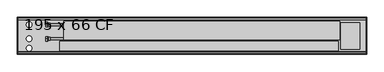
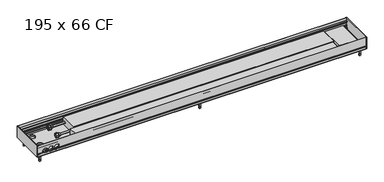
"""IFC4 building model written with IfcOpenShell, lengths in millimetres: proxy geometry, Mohlenhof_Внутрипольный конвектор_QSKM CF : 195 x 66 CF."""

from ifc_helpers import new_model, si_unit, point, frame, frame_2d, origin, place, context, project, spatial, polyline, circle_curve, ellipse_curve, trimmed, segment, composite_curve, outline, extrude, source, transform, mapped, element, save
from ifc_brep_helpers import plane_surface, cylinder_surface, revolved_surface, advanced_brep


def proxy_195_x_66_cf_08affbe3(model_context):
    return source(origin(), model_context, "Body", "SolidModel", [
        extrude(outline(composite_curve([segment(trimmed(circle_curve(frame_2d((0.0, -273.5)), 4.5), [point((-4.5, -273.5))], [point((4.5, -273.5))], False, "CARTESIAN"), True, "CONTINUOUS"), segment(trimmed(circle_curve(frame_2d((0.0, -273.5)), 4.5), [point((4.5, -273.5))], [point((-4.5, -273.5))], False, "CARTESIAN"), True, "CONTINUOUS")], self_intersect=False)), frame((0.0, 0.0, -110.0), z_axis=(0.0, 0.0, 1.0), x_axis=(1.0, 0.0, 0.0)), (0.0, 0.0, 1.0), 7.0),
        extrude(outline(composite_curve([segment(trimmed(circle_curve(frame_2d((0.0, -273.5)), 4.0), [point((-4.0, -273.5))], [point((4.0, -273.5))], False, "CARTESIAN"), True, "CONTINUOUS"), segment(trimmed(circle_curve(frame_2d((0.0, -273.5)), 4.0), [point((4.0, -273.5))], [point((-4.0, -273.5))], False, "CARTESIAN"), True, "CONTINUOUS")], self_intersect=False)), frame((0.0, 0.0, -103.0), z_axis=(0.0, 0.0, 1.0), x_axis=(1.0, 0.0, 0.0)), (0.0, 0.0, 1.0), 32.5),
        extrude(outline(composite_curve([segment(trimmed(circle_curve(frame_2d((0.0, -121.5)), 4.5), [point((-4.5, -121.5))], [point((4.5, -121.5))], False, "CARTESIAN"), True, "CONTINUOUS"), segment(trimmed(circle_curve(frame_2d((0.0, -121.5)), 4.5), [point((4.5, -121.5))], [point((-4.5, -121.5))], False, "CARTESIAN"), True, "CONTINUOUS")], self_intersect=False)), frame((0.0, 0.0, -110.0), z_axis=(0.0, 0.0, 1.0), x_axis=(1.0, 0.0, 0.0)), (0.0, 0.0, 1.0), 7.0),
        extrude(outline(composite_curve([segment(trimmed(circle_curve(frame_2d((0.0, -121.5)), 4.0), [point((-4.0, -121.5))], [point((4.0, -121.5))], False, "CARTESIAN"), True, "CONTINUOUS"), segment(trimmed(circle_curve(frame_2d((0.0, -121.5)), 4.0), [point((4.0, -121.5))], [point((-4.0, -121.5))], False, "CARTESIAN"), True, "CONTINUOUS")], self_intersect=False)), frame((0.0, 0.0, -103.0), z_axis=(0.0, 0.0, 1.0), x_axis=(1.0, 0.0, 0.0)), (0.0, 0.0, 1.0), 32.5),
        advanced_brep(
        [(-764.0, -213.0, -41.0), (-764.0, -201.0, -41.0), (-764.0, -225.0, -41.0), (-751.5, -220.5, -41.0), (-751.5, -205.5, -41.0), (-751.5, -213.0, -41.0), (-759.0, -220.5, -41.0), (-759.0, -205.5, -41.0)],
        [
            (0, 1),
            (1, 2, circle_curve(frame((-764.0, -213.0, -41.0), z_axis=(-1.0, 0.0, 0.0), x_axis=(0.0, 1.0, 0.0)), 12.0)),
            (2, 0),
            (2, 1, circle_curve(frame((-764.0, -213.0, -41.0), z_axis=(-1.0, 0.0, 0.0), x_axis=(0.0, 1.0, 0.0)), 12.0)),
            (3, 4, circle_curve(frame((-751.5, -213.0, -41.0), z_axis=(1.0, 0.0, 0.0), x_axis=(0.0, 1.0, 0.0)), 7.5)),
            (4, 5),
            (5, 3),
            (4, 3, circle_curve(frame((-751.5, -213.0, -41.0), z_axis=(1.0, 0.0, 0.0), x_axis=(0.0, 1.0, 0.0)), 7.5)),
            (6, 7, circle_curve(frame((-759.0, -213.0, -41.0), z_axis=(1.0, 0.0, 0.0), x_axis=(0.0, 1.0, 0.0)), 7.5)),
            (7, 4),
            (3, 6),
            (7, 6, circle_curve(frame((-759.0, -213.0, -41.0), z_axis=(1.0, 0.0, 0.0), x_axis=(0.0, 1.0, 0.0)), 7.5)),
            (1, 7),
            (6, 2),
        ],
        [
            plane_surface(frame((-764.0, -213.0, -41.0), z_axis=(-1.0, 0.0, 0.0), x_axis=(0.0, 1.0, 0.0))),
            plane_surface(frame((-751.5, -213.0, -41.0), z_axis=(1.0, 0.0, 0.0), x_axis=(0.0, 1.0, 0.0))),
            cylinder_surface(frame((-764.0, -213.0, -41.0), z_axis=(-1.0, 0.0, 0.0), x_axis=(0.0, 1.0, 0.0)), 7.5),
            revolved_surface(polyline([(-759.0, -205.5, -41.0), (-764.0, -201.0, -41.0)]), (-764.0, -213.0, -41.0), (-1.0, 0.0, 0.0)),
        ],
        [
            (0, [[1, 2, 3]]),
            (0, [[-3, 4, -1]]),
            (1, [[5, 6, 7]]),
            (1, [[8, -7, -6]]),
            (2, [[9, 10, -5, 11]]),
            (2, [[12, -11, -8, -10]]),
            (3, [[-2, 13, -9, 14]]),
            (3, [[-4, -14, -12, -13]]),
        ],
    ),
        extrude(outline(polyline([(-213.0, -27.1435935), (-201.0, -34.0717968), (-201.0, -47.9282032), (-213.0, -54.8564065), (-225.0, -47.9282032), (-225.0, -34.0717968), (-213.0, -27.1435935)]), holes=[composite_curve([segment(trimmed(circle_curve(frame_2d((-213.0, -41.0)), 8.5), [point((-204.5, -41.0))], [point((-221.5, -41.0))], True, "CARTESIAN"), True, "CONTINUOUS"), segment(trimmed(circle_curve(frame_2d((-213.0, -41.0)), 8.5), [point((-221.5, -41.0))], [point((-204.5, -41.0))], True, "CARTESIAN"), True, "CONTINUOUS")], self_intersect=False)]), frame((-775.0, 0.0, 0.0), z_axis=(1.0, 0.0, 0.0), x_axis=(0.0, 1.0, 0.0)), (0.0, 0.0, 1.0), 11.0),
        advanced_brep(
        [(-764.0, -138.0, -41.0), (-764.0, -126.0, -41.0), (-764.0, -150.0, -41.0), (-751.5, -145.5, -41.0), (-751.5, -130.5, -41.0), (-751.5, -138.0, -41.0), (-759.0, -145.5, -41.0), (-759.0, -130.5, -41.0)],
        [
            (0, 1),
            (1, 2, circle_curve(frame((-764.0, -138.0, -41.0), z_axis=(-1.0, 0.0, 0.0), x_axis=(0.0, 1.0, 0.0)), 12.0)),
            (2, 0),
            (2, 1, circle_curve(frame((-764.0, -138.0, -41.0), z_axis=(-1.0, 0.0, 0.0), x_axis=(0.0, 1.0, 0.0)), 12.0)),
            (3, 4, circle_curve(frame((-751.5, -138.0, -41.0), z_axis=(1.0, 0.0, 0.0), x_axis=(0.0, 1.0, 0.0)), 7.5)),
            (4, 5),
            (5, 3),
            (4, 3, circle_curve(frame((-751.5, -138.0, -41.0), z_axis=(1.0, 0.0, 0.0), x_axis=(0.0, 1.0, 0.0)), 7.5)),
            (6, 7, circle_curve(frame((-759.0, -138.0, -41.0), z_axis=(1.0, 0.0, 0.0), x_axis=(0.0, 1.0, 0.0)), 7.5)),
            (7, 4),
            (3, 6),
            (7, 6, circle_curve(frame((-759.0, -138.0, -41.0), z_axis=(1.0, 0.0, 0.0), x_axis=(0.0, 1.0, 0.0)), 7.5)),
            (1, 7),
            (6, 2),
        ],
        [
            plane_surface(frame((-764.0, -138.0, -41.0), z_axis=(-1.0, 0.0, 0.0), x_axis=(0.0, 1.0, 0.0))),
            plane_surface(frame((-751.5, -138.0, -41.0), z_axis=(1.0, 0.0, 0.0), x_axis=(0.0, 1.0, 0.0))),
            cylinder_surface(frame((-764.0, -138.0, -41.0), z_axis=(-1.0, 0.0, 0.0), x_axis=(0.0, 1.0, 0.0)), 7.5),
            revolved_surface(polyline([(-759.0, -130.5, -41.0), (-764.0, -126.0, -41.0)]), (-764.0, -138.0, -41.0), (-1.0, 0.0, 0.0)),
        ],
        [
            (0, [[1, 2, 3]]),
            (0, [[-3, 4, -1]]),
            (1, [[5, 6, 7]]),
            (1, [[8, -7, -6]]),
            (2, [[9, 10, -5, 11]]),
            (2, [[12, -11, -8, -10]]),
            (3, [[-2, 13, -9, 14]]),
            (3, [[-4, -14, -12, -13]]),
        ],
    ),
        extrude(outline(polyline([(-138.0, -27.1435935), (-126.0, -34.0717968), (-126.0, -47.9282032), (-138.0, -54.8564065), (-150.0, -47.9282032), (-150.0, -34.0717968), (-138.0, -27.1435935)]), holes=[composite_curve([segment(trimmed(circle_curve(frame_2d((-138.0, -41.0)), 8.5), [point((-129.5, -41.0))], [point((-146.5, -41.0))], True, "CARTESIAN"), True, "CONTINUOUS"), segment(trimmed(circle_curve(frame_2d((-138.0, -41.0)), 8.5), [point((-146.5, -41.0))], [point((-129.5, -41.0))], True, "CARTESIAN"), True, "CONTINUOUS")], self_intersect=False)]), frame((-775.0, 0.0, 0.0), z_axis=(1.0, 0.0, 0.0), x_axis=(0.0, 1.0, 0.0)), (0.0, 0.0, 1.0), 11.0),
        extrude(outline(composite_curve([segment(trimmed(circle_curve(frame_2d((-900.0, -273.5)), 4.5), [point((-904.5, -273.5))], [point((-895.5, -273.5))], False, "CARTESIAN"), True, "CONTINUOUS"), segment(trimmed(circle_curve(frame_2d((-900.0, -273.5)), 4.5), [point((-895.5, -273.5))], [point((-904.5, -273.5))], False, "CARTESIAN"), True, "CONTINUOUS")], self_intersect=False)), frame((0.0, 0.0, -110.0), z_axis=(0.0, 0.0, 1.0), x_axis=(1.0, 0.0, 0.0)), (0.0, 0.0, 1.0), 7.0),
        extrude(outline(composite_curve([segment(trimmed(circle_curve(frame_2d((-900.0, -273.5)), 4.0), [point((-904.0, -273.5))], [point((-896.0, -273.5))], False, "CARTESIAN"), True, "CONTINUOUS"), segment(trimmed(circle_curve(frame_2d((-900.0, -273.5)), 4.0), [point((-896.0, -273.5))], [point((-904.0, -273.5))], False, "CARTESIAN"), True, "CONTINUOUS")], self_intersect=False)), frame((0.0, 0.0, -103.0), z_axis=(0.0, 0.0, 1.0), x_axis=(1.0, 0.0, 0.0)), (0.0, 0.0, 1.0), 32.5),
        extrude(outline(composite_curve([segment(trimmed(circle_curve(frame_2d((-900.0, -121.5)), 4.5), [point((-904.5, -121.5))], [point((-895.5, -121.5))], False, "CARTESIAN"), True, "CONTINUOUS"), segment(trimmed(circle_curve(frame_2d((-900.0, -121.5)), 4.5), [point((-895.5, -121.5))], [point((-904.5, -121.5))], False, "CARTESIAN"), True, "CONTINUOUS")], self_intersect=False)), frame((0.0, 0.0, -110.0), z_axis=(0.0, 0.0, 1.0), x_axis=(1.0, 0.0, 0.0)), (0.0, 0.0, 1.0), 7.0),
        extrude(outline(composite_curve([segment(trimmed(circle_curve(frame_2d((-900.0, -121.5)), 4.0), [point((-904.0, -121.5))], [point((-896.0, -121.5))], False, "CARTESIAN"), True, "CONTINUOUS"), segment(trimmed(circle_curve(frame_2d((-900.0, -121.5)), 4.0), [point((-896.0, -121.5))], [point((-904.0, -121.5))], False, "CARTESIAN"), True, "CONTINUOUS")], self_intersect=False)), frame((0.0, 0.0, -103.0), z_axis=(0.0, 0.0, 1.0), x_axis=(1.0, 0.0, 0.0)), (0.0, 0.0, 1.0), 32.5),
        extrude(outline(composite_curve([segment(trimmed(circle_curve(frame_2d((900.0, -273.5)), 4.5), [point((895.5, -273.5))], [point((904.5, -273.5))], False, "CARTESIAN"), True, "CONTINUOUS"), segment(trimmed(circle_curve(frame_2d((900.0, -273.5)), 4.5), [point((904.5, -273.5))], [point((895.5, -273.5))], False, "CARTESIAN"), True, "CONTINUOUS")], self_intersect=False)), frame((0.0, 0.0, -110.0), z_axis=(0.0, 0.0, 1.0), x_axis=(1.0, 0.0, 0.0)), (0.0, 0.0, 1.0), 7.0),
        extrude(outline(composite_curve([segment(trimmed(circle_curve(frame_2d((900.0, -273.5)), 4.0), [point((896.0, -273.5))], [point((904.0, -273.5))], False, "CARTESIAN"), True, "CONTINUOUS"), segment(trimmed(circle_curve(frame_2d((900.0, -273.5)), 4.0), [point((904.0, -273.5))], [point((896.0, -273.5))], False, "CARTESIAN"), True, "CONTINUOUS")], self_intersect=False)), frame((0.0, 0.0, -103.0), z_axis=(0.0, 0.0, 1.0), x_axis=(1.0, 0.0, 0.0)), (0.0, 0.0, 1.0), 32.5),
        extrude(outline(composite_curve([segment(trimmed(circle_curve(frame_2d((900.0, -121.5)), 4.5), [point((895.5, -121.5))], [point((904.5, -121.5))], False, "CARTESIAN"), True, "CONTINUOUS"), segment(trimmed(circle_curve(frame_2d((900.0, -121.5)), 4.5), [point((904.5, -121.5))], [point((895.5, -121.5))], False, "CARTESIAN"), True, "CONTINUOUS")], self_intersect=False)), frame((0.0, 0.0, -110.0), z_axis=(0.0, 0.0, 1.0), x_axis=(1.0, 0.0, 0.0)), (0.0, 0.0, 1.0), 7.0),
        extrude(outline(composite_curve([segment(trimmed(circle_curve(frame_2d((900.0, -121.5)), 4.0), [point((896.0, -121.5))], [point((904.0, -121.5))], False, "CARTESIAN"), True, "CONTINUOUS"), segment(trimmed(circle_curve(frame_2d((900.0, -121.5)), 4.0), [point((904.0, -121.5))], [point((896.0, -121.5))], False, "CARTESIAN"), True, "CONTINUOUS")], self_intersect=False)), frame((0.0, 0.0, -103.0), z_axis=(0.0, 0.0, 1.0), x_axis=(1.0, 0.0, 0.0)), (0.0, 0.0, 1.0), 32.5),
        extrude(outline(polyline([(-62.5, 876.0), (-44.5, 876.0), (-44.5, 885.0), (-29.5, 885.0), (-29.5, 888.0), (-19.5, 888.0), (-19.5, 788.0), (-29.5, 788.0), (-29.5, 791.0), (-62.5, 791.0), (-62.5, 876.0)])), frame((0.0, -267.5, 0.0), z_axis=(0.0, 1.0, 0.0), x_axis=(0.0, 0.0, 1.0)), (0.0, 0.0, 1.0), 140.0),
        extrude(outline(polyline([(775.0, -225.87), (775.0, -277.18), (-700.0, -277.18), (-700.0, -225.87), (775.0, -225.87)])), frame((0.0, 0.0, -62.5), z_axis=(0.0, 0.0, 1.0), x_axis=(1.0, 0.0, 0.0)), (0.0, 0.0, 1.0), 43.62),
        extrude(outline(composite_curve([segment(trimmed(circle_curve(frame_2d((-213.0, -41.0)), 5.0), [point((-218.0, -41.0))], [point((-208.0, -41.0))], False, "CARTESIAN"), True, "CONTINUOUS"), segment(trimmed(circle_curve(frame_2d((-213.0, -41.0)), 5.0), [point((-208.0, -41.0))], [point((-218.0, -41.0))], False, "CARTESIAN"), True, "CONTINUOUS")], self_intersect=False)), frame((-775.0, 0.0, 0.0), z_axis=(1.0, 0.0, 0.0), x_axis=(0.0, 1.0, 0.0)), (0.0, 0.0, 1.0), 95.0),
        extrude(outline(composite_curve([segment(trimmed(circle_curve(frame_2d((-138.0, -41.0)), 5.0), [point((-143.0, -41.0))], [point((-133.0, -41.0))], False, "CARTESIAN"), True, "CONTINUOUS"), segment(trimmed(circle_curve(frame_2d((-138.0, -41.0)), 5.0), [point((-133.0, -41.0))], [point((-143.0, -41.0))], False, "CARTESIAN"), True, "CONTINUOUS")], self_intersect=False)), frame((-775.0, 0.0, 0.0), z_axis=(1.0, 0.0, 0.0), x_axis=(0.0, 1.0, 0.0)), (0.0, 0.0, 1.0), 95.0),
        advanced_brep(
        [(923.0, -295.0, -48.5473602), (923.0, -293.5, -49.2468216), (923.0, -292.5, -49.2468216), (923.0, -292.5, -46.0008038), (923.0, -290.0, -46.0008038), (923.0, -290.0, -56.5008038), (923.0, -292.5, -56.5008038), (923.0, -292.5, -53.2468216), (923.0, -293.5, -53.2468216), (923.0, -295.0, -53.9462831), (923.0, -295.0, -66.5), (923.0, -291.0, -66.5), (923.0, -291.0, -65.2), (923.0, -293.0, -65.2), (923.0, -293.0, -62.5), (923.0, -282.0, -62.5), (923.0, -282.0, -54.9172677), (923.0, -283.4172677, -53.5), (923.0, -287.0, -53.5), (923.0, -287.0, -45.91), (923.0, -289.0, -43.91), (923.0, -289.0, -39.5), (923.0, -290.0, -39.5), (923.0, -290.0, -43.5), (923.0, -292.4956439, -43.5), (923.0, -292.4956439, -23.0), (923.0, -290.0, -23.0), (923.0, -290.0, -27.0), (923.0, -289.0, -27.0), (923.0, -289.0, -17.0), (923.0, -283.3956439, -17.0), (923.0, -283.3956439, -15.0), (923.0, -293.4, -15.0), (923.0, -293.4, 0.0), (923.0, -295.0, 0.0), (-923.0, -295.0, -48.5473602), (-923.0, -295.0, 0.0), (-923.0, -293.4, 0.0), (-923.0, -293.4, -15.0), (-923.0, -283.3956439, -15.0), (-923.0, -283.3956439, -17.0), (-923.0, -289.0, -17.0), (-923.0, -289.0, -27.0), (-923.0, -290.0, -27.0), (-923.0, -290.0, -23.0), (-923.0, -292.4956439, -23.0), (-923.0, -292.4956439, -43.5), (-923.0, -290.0, -43.5), (-923.0, -290.0, -39.5), (-923.0, -289.0, -39.5), (-923.0, -289.0, -43.91), (-923.0, -287.0, -45.91), (-923.0, -287.0, -53.5), (-923.0, -283.4172677, -53.5), (-923.0, -282.0, -54.9172677), (-923.0, -282.0, -62.5), (-923.0, -293.0, -62.5), (-923.0, -293.0, -65.2), (-923.0, -291.0, -65.2), (-923.0, -291.0, -66.5), (-923.0, -295.0, -66.5), (-923.0, -295.0, -53.9462831), (-923.0, -293.5, -53.2468216), (-923.0, -292.5, -53.2468216), (-923.0, -292.5, -56.5008038), (-923.0, -290.0, -56.5008038), (-923.0, -290.0, -46.0008038), (-923.0, -292.5, -46.0008038), (-923.0, -292.5, -49.2468216), (-923.0, -293.5, -49.2468216), (-803.7585985, -295.0, -48.5473602), (-804.155283, -293.5, -49.2468216), (-895.844717, -293.5, -49.2468216), (-896.2414015, -295.0, -48.5473602), (-863.2414015, -295.0, -48.5473602), (-869.7585985, -295.0, -48.5473602), (-870.155283, -293.5, -49.2468216), (-862.844717, -293.5, -49.2468216), (-830.2414015, -295.0, -48.5473602), (-836.7585985, -295.0, -48.5473602), (-837.155283, -293.5, -49.2468216), (-829.844717, -293.5, -49.2468216), (-804.155283, -292.5, -49.2468216), (-895.844717, -292.5, -49.2468216), (-870.155283, -292.5, -49.2468216), (-862.844717, -292.5, -49.2468216), (-837.155283, -292.5, -49.2468216), (-829.844717, -292.5, -49.2468216), (-802.6911648, -292.5, -46.0008038), (-897.3088352, -292.5, -46.0008038), (-868.6911648, -292.5, -46.0008038), (-864.3088352, -292.5, -46.0008038), (-835.6911648, -292.5, -46.0008038), (-831.3088352, -292.5, -46.0008038), (-802.6911648, -290.0, -46.0008038), (-897.3088352, -290.0, -46.0008038), (-868.6911648, -290.0, -46.0008038), (-864.3088352, -290.0, -46.0008038), (-835.6911648, -290.0, -46.0008038), (-831.3088352, -290.0, -46.0008038), (-892.328032, -292.5, -53.2468216), (-873.671968, -292.5, -53.2468216), (-859.328032, -292.5, -53.2468216), (-840.671968, -292.5, -53.2468216), (-826.328032, -292.5, -53.2468216), (-807.671968, -292.5, -53.2468216), (-807.671968, -293.5, -53.2468216), (-892.328032, -293.5, -53.2468216), (-873.671968, -293.5, -53.2468216), (-859.328032, -293.5, -53.2468216), (-840.671968, -293.5, -53.2468216), (-826.328032, -293.5, -53.2468216), (-808.6280208, -295.0, -53.9462831), (-891.3719792, -295.0, -53.9462831), (-874.6280208, -295.0, -53.9462831), (-858.3719792, -295.0, -53.9462831), (-841.6280208, -295.0, -53.9462831), (-825.3719792, -295.0, -53.9462831), (-889.7064841, -282.0, -54.9172677), (-876.2935159, -282.0, -54.9172677), (-856.7064841, -282.0, -54.9172677), (-843.2935159, -282.0, -54.9172677), (-823.7064841, -282.0, -54.9172677), (-810.2935159, -282.0, -54.9172677), (-808.0, -283.4172677, -53.5), (-892.0, -283.4172677, -53.5), (-874.0, -283.4172677, -53.5), (-859.0, -283.4172677, -53.5), (-841.0, -283.4172677, -53.5), (-826.0, -283.4172677, -53.5), (-808.0, -287.0, -53.5), (-892.0, -287.0, -53.5), (-874.0, -287.0, -53.5), (-859.0, -287.0, -53.5), (-841.0, -287.0, -53.5), (-826.0, -287.0, -53.5), (-802.6629187, -287.0, -45.91), (-897.3370813, -287.0, -45.91), (-868.6629187, -287.0, -45.91), (-864.3370813, -287.0, -45.91), (-835.6629187, -287.0, -45.91), (-831.3370813, -287.0, -45.91), (-802.1948691, -289.0, -43.91), (-897.8051309, -289.0, -43.91), (-868.1948691, -289.0, -43.91), (-864.8051309, -289.0, -43.91), (-835.1948691, -289.0, -43.91), (-831.8051309, -289.0, -43.91), (-802.0, -289.0, -41.5), (-802.1339313, -289.0, -39.5), (-897.8660687, -289.0, -39.5), (-898.0, -289.0, -41.5), (-868.0, -289.0, -41.5), (-868.1339313, -289.0, -39.5), (-864.8660687, -289.0, -39.5), (-865.0, -289.0, -41.5), (-835.0, -289.0, -41.5), (-835.1339313, -289.0, -39.5), (-831.8660687, -289.0, -39.5), (-832.0, -289.0, -41.5), (-802.1339313, -290.0, -39.5), (-897.8660687, -290.0, -39.5), (-868.1339313, -290.0, -39.5), (-864.8660687, -290.0, -39.5), (-835.1339313, -290.0, -39.5), (-831.8660687, -290.0, -39.5), (-802.0, -290.0, -41.5), (-802.1339313, -290.0, -43.5), (-897.8660687, -290.0, -43.5), (-898.0, -290.0, -41.5), (-868.0, -290.0, -41.5), (-868.1339313, -290.0, -43.5), (-864.8660687, -290.0, -43.5), (-865.0, -290.0, -41.5), (-835.0, -290.0, -41.5), (-835.1339313, -290.0, -43.5), (-831.8660687, -290.0, -43.5), (-832.0, -290.0, -41.5), (-802.1339313, -292.4956439, -43.5), (-897.8660687, -292.4956439, -43.5), (-868.1339313, -292.4956439, -43.5), (-864.8660687, -292.4956439, -43.5), (-835.1339313, -292.4956439, -43.5), (-831.8660687, -292.4956439, -43.5), (-802.0, -292.4956439, -41.5), (-832.0, -292.4956439, -41.5), (-835.0, -292.4956439, -41.5), (-865.0, -292.4956439, -41.5), (-868.0, -292.4956439, -41.5), (-898.0, -292.4956439, -41.5), (-886.8405729, -290.0, -27.0), (-879.1594271, -290.0, -27.0), (-853.8405729, -290.0, -27.0), (-846.1594271, -290.0, -27.0), (-820.8405729, -290.0, -27.0), (-813.1594271, -290.0, -27.0), (-813.1594271, -289.0, -27.0), (-886.8405729, -289.0, -27.0), (-879.1594271, -289.0, -27.0), (-853.8405729, -289.0, -27.0), (-846.1594271, -289.0, -27.0), (-820.8405729, -289.0, -27.0), (-898.0, -295.0, -41.5), (-868.0, -295.0, -41.5), (-865.0, -295.0, -41.5), (-835.0, -295.0, -41.5), (-832.0, -295.0, -41.5), (-802.0, -295.0, -41.5)],
        [
            (0, 1),
            (1, 2),
            (2, 3),
            (3, 4),
            (4, 5),
            (5, 6),
            (6, 7),
            (7, 8),
            (8, 9),
            (9, 10),
            (10, 11),
            (11, 12),
            (12, 13),
            (13, 14),
            (14, 15),
            (15, 16),
            (16, 17),
            (17, 18),
            (18, 19),
            (19, 20),
            (20, 21),
            (21, 22),
            (22, 23),
            (23, 24),
            (24, 25),
            (25, 26),
            (26, 27),
            (27, 28),
            (28, 29),
            (29, 30),
            (30, 31),
            (31, 32),
            (32, 33),
            (33, 34),
            (34, 0),
            (35, 36),
            (36, 37),
            (37, 38),
            (38, 39),
            (39, 40),
            (40, 41),
            (41, 42),
            (42, 43),
            (43, 44),
            (44, 45),
            (45, 46),
            (46, 47),
            (47, 48),
            (48, 49),
            (49, 50),
            (50, 51),
            (51, 52),
            (52, 53),
            (53, 54),
            (54, 55),
            (55, 56),
            (56, 57),
            (57, 58),
            (58, 59),
            (59, 60),
            (60, 61),
            (61, 62),
            (62, 63),
            (63, 64),
            (64, 65),
            (65, 66),
            (66, 67),
            (67, 68),
            (68, 69),
            (69, 35),
            (0, 70),
            (70, 71, ellipse_curve(frame((-817.0, -310.1131126, -41.5), z_axis=(0.0, 0.42261826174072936, 0.9063077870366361), x_axis=(0.0, -0.906307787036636, 0.4226182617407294)), 35.4930237, 15.0)),
            (71, 1),
            (69, 72),
            (72, 73, ellipse_curve(frame((-883.0, -310.1131126, -41.5), z_axis=(0.0, 0.42261826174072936, 0.9063077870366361), x_axis=(0.0, -0.906307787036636, 0.4226182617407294)), 35.4930237, 15.0)),
            (73, 35),
            (74, 75),
            (75, 76, ellipse_curve(frame((-883.0, -310.1131126, -41.5), z_axis=(0.0, 0.42261826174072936, 0.9063077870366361), x_axis=(0.0, -0.906307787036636, 0.4226182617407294)), 35.4930237, 15.0)),
            (76, 77),
            (77, 74, ellipse_curve(frame((-850.0, -310.1131126, -41.5), z_axis=(0.0, 0.42261826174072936, 0.9063077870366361), x_axis=(0.0, -0.906307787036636, 0.4226182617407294)), 35.4930237, 15.0)),
            (78, 79),
            (79, 80, ellipse_curve(frame((-850.0, -310.1131126, -41.5), z_axis=(0.0, 0.42261826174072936, 0.9063077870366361), x_axis=(0.0, -0.906307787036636, 0.4226182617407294)), 35.4930237, 15.0)),
            (80, 81),
            (81, 78, ellipse_curve(frame((-817.0, -310.1131126, -41.5), z_axis=(0.0, 0.42261826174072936, 0.9063077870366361), x_axis=(0.0, -0.906307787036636, 0.4226182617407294)), 35.4930237, 15.0)),
            (71, 82),
            (82, 2),
            (68, 83),
            (83, 72),
            (76, 84),
            (84, 85),
            (85, 77),
            (80, 86),
            (86, 87),
            (87, 81),
            (82, 88, circle_curve(frame((-817.0, -292.5, -41.5), z_axis=(0.0, -1.0, 0.0), x_axis=(1.0, 0.0, 0.0)), 15.0)),
            (88, 3),
            (67, 89),
            (89, 83, circle_curve(frame((-883.0, -292.5, -41.5), z_axis=(0.0, -1.0, 0.0), x_axis=(1.0, 0.0, 0.0)), 15.0)),
            (84, 90, circle_curve(frame((-883.0, -292.5, -41.5), z_axis=(0.0, -1.0, 0.0), x_axis=(1.0, 0.0, 0.0)), 15.0)),
            (90, 91),
            (91, 85, circle_curve(frame((-850.0, -292.5, -41.5), z_axis=(0.0, -1.0, 0.0), x_axis=(1.0, 0.0, 0.0)), 15.0)),
            (86, 92, circle_curve(frame((-850.0, -292.5, -41.5), z_axis=(0.0, -1.0, 0.0), x_axis=(1.0, 0.0, 0.0)), 15.0)),
            (92, 93),
            (93, 87, circle_curve(frame((-817.0, -292.5, -41.5), z_axis=(0.0, -1.0, 0.0), x_axis=(1.0, 0.0, 0.0)), 15.0)),
            (88, 94),
            (94, 4),
            (66, 95),
            (95, 89),
            (90, 96),
            (96, 97),
            (97, 91),
            (92, 98),
            (98, 99),
            (99, 93),
            (94, 99, circle_curve(frame((-817.0, -290.0, -41.5), z_axis=(0.0, 1.0, 0.0), x_axis=(1.0, 0.0, 0.0)), 15.0)),
            (98, 97, circle_curve(frame((-850.0, -290.0, -41.5), z_axis=(0.0, 1.0, 0.0), x_axis=(1.0, 0.0, 0.0)), 15.0)),
            (96, 95, circle_curve(frame((-883.0, -290.0, -41.5), z_axis=(0.0, 1.0, 0.0), x_axis=(1.0, 0.0, 0.0)), 15.0)),
            (65, 5),
            (64, 6),
            (63, 100),
            (100, 101, circle_curve(frame((-883.0, -292.5, -41.5), z_axis=(0.0, -1.0, 0.0), x_axis=(1.0, 0.0, 0.0)), 15.0)),
            (101, 102),
            (102, 103, circle_curve(frame((-850.0, -292.5, -41.5), z_axis=(0.0, -1.0, 0.0), x_axis=(1.0, 0.0, 0.0)), 15.0)),
            (103, 104),
            (104, 105, circle_curve(frame((-817.0, -292.5, -41.5), z_axis=(0.0, -1.0, 0.0), x_axis=(1.0, 0.0, 0.0)), 15.0)),
            (105, 7),
            (105, 106),
            (106, 8),
            (62, 107),
            (107, 100),
            (101, 108),
            (108, 109),
            (109, 102),
            (103, 110),
            (110, 111),
            (111, 104),
            (106, 112, ellipse_curve(frame((-817.0, -268.3088597, -41.5), z_axis=(0.0, 0.4226182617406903, -0.9063077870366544), x_axis=(0.0, -0.9063077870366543, -0.42261826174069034)), 35.4930237, 15.0)),
            (112, 9),
            (61, 113),
            (113, 107, ellipse_curve(frame((-883.0, -268.3088597, -41.5), z_axis=(0.0, 0.4226182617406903, -0.9063077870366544), x_axis=(0.0, -0.9063077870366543, -0.42261826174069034)), 35.4930237, 15.0)),
            (108, 114, ellipse_curve(frame((-883.0, -268.3088597, -41.5), z_axis=(0.0, 0.4226182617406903, -0.9063077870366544), x_axis=(0.0, -0.9063077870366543, -0.42261826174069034)), 35.4930237, 15.0)),
            (114, 115),
            (115, 109, ellipse_curve(frame((-850.0, -268.3088597, -41.5), z_axis=(0.0, 0.4226182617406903, -0.9063077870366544), x_axis=(0.0, -0.9063077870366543, -0.42261826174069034)), 35.4930237, 15.0)),
            (110, 116, ellipse_curve(frame((-850.0, -268.3088597, -41.5), z_axis=(0.0, 0.4226182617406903, -0.9063077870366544), x_axis=(0.0, -0.9063077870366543, -0.42261826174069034)), 35.4930237, 15.0)),
            (116, 117),
            (117, 111, ellipse_curve(frame((-817.0, -268.3088597, -41.5), z_axis=(0.0, 0.4226182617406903, -0.9063077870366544), x_axis=(0.0, -0.9063077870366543, -0.42261826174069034)), 35.4930237, 15.0)),
            (112, 117, circle_curve(frame((-817.0, -295.0, -41.5), z_axis=(0.0, 1.0, 0.0), x_axis=(1.0, 0.0, 0.0)), 15.0)),
            (116, 115, circle_curve(frame((-850.0, -295.0, -41.5), z_axis=(0.0, 1.0, 0.0), x_axis=(1.0, 0.0, 0.0)), 15.0)),
            (114, 113, circle_curve(frame((-883.0, -295.0, -41.5), z_axis=(0.0, 1.0, 0.0), x_axis=(1.0, 0.0, 0.0)), 15.0)),
            (60, 10),
            (59, 11),
            (58, 12),
            (57, 13),
            (56, 14),
            (55, 15),
            (54, 118),
            (118, 119, circle_curve(frame((-883.0, -282.0, -41.5), z_axis=(0.0, -1.0, 0.0), x_axis=(1.0, 0.0, 0.0)), 15.0)),
            (119, 120),
            (120, 121, circle_curve(frame((-850.0, -282.0, -41.5), z_axis=(0.0, -1.0, 0.0), x_axis=(1.0, 0.0, 0.0)), 15.0)),
            (121, 122),
            (122, 123, circle_curve(frame((-817.0, -282.0, -41.5), z_axis=(0.0, -1.0, 0.0), x_axis=(1.0, 0.0, 0.0)), 15.0)),
            (123, 16),
            (123, 124, ellipse_curve(frame((-817.0, -295.4172677, -41.5), z_axis=(0.0, -0.7071067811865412, -0.7071067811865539), x_axis=(0.0, -0.7071067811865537, 0.7071067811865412)), 21.2132034, 15.0)),
            (124, 17),
            (53, 125),
            (125, 118, ellipse_curve(frame((-883.0, -295.4172677, -41.5), z_axis=(0.0, -0.7071067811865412, -0.7071067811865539), x_axis=(0.0, -0.7071067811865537, 0.7071067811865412)), 21.2132034, 15.0)),
            (119, 126, ellipse_curve(frame((-883.0, -295.4172677, -41.5), z_axis=(0.0, -0.7071067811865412, -0.7071067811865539), x_axis=(0.0, -0.7071067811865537, 0.7071067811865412)), 21.2132034, 15.0)),
            (126, 127),
            (127, 120, ellipse_curve(frame((-850.0, -295.4172677, -41.5), z_axis=(0.0, -0.7071067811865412, -0.7071067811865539), x_axis=(0.0, -0.7071067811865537, 0.7071067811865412)), 21.2132034, 15.0)),
            (121, 128, ellipse_curve(frame((-850.0, -295.4172677, -41.5), z_axis=(0.0, -0.7071067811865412, -0.7071067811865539), x_axis=(0.0, -0.7071067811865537, 0.7071067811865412)), 21.2132034, 15.0)),
            (128, 129),
            (129, 122, ellipse_curve(frame((-817.0, -295.4172677, -41.5), z_axis=(0.0, -0.7071067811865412, -0.7071067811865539), x_axis=(0.0, -0.7071067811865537, 0.7071067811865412)), 21.2132034, 15.0)),
            (124, 130),
            (130, 18),
            (52, 131),
            (131, 125),
            (126, 132),
            (132, 133),
            (133, 127),
            (128, 134),
            (134, 135),
            (135, 129),
            (130, 136, circle_curve(frame((-817.0, -287.0, -41.5), z_axis=(0.0, -1.0, 0.0), x_axis=(1.0, 0.0, 0.0)), 15.0)),
            (136, 19),
            (51, 137),
            (137, 131, circle_curve(frame((-883.0, -287.0, -41.5), z_axis=(0.0, -1.0, 0.0), x_axis=(1.0, 0.0, 0.0)), 15.0)),
            (132, 138, circle_curve(frame((-883.0, -287.0, -41.5), z_axis=(0.0, -1.0, 0.0), x_axis=(1.0, 0.0, 0.0)), 15.0)),
            (138, 139),
            (139, 133, circle_curve(frame((-850.0, -287.0, -41.5), z_axis=(0.0, -1.0, 0.0), x_axis=(1.0, 0.0, 0.0)), 15.0)),
            (134, 140, circle_curve(frame((-850.0, -287.0, -41.5), z_axis=(0.0, -1.0, 0.0), x_axis=(1.0, 0.0, 0.0)), 15.0)),
            (140, 141),
            (141, 135, circle_curve(frame((-817.0, -287.0, -41.5), z_axis=(0.0, -1.0, 0.0), x_axis=(1.0, 0.0, 0.0)), 15.0)),
            (136, 142, ellipse_curve(frame((-817.0, -291.41, -41.5), z_axis=(0.0, -0.7071067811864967, -0.7071067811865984), x_axis=(0.0, -0.7071067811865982, 0.7071067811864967)), 21.2132034, 15.0)),
            (142, 20),
            (50, 143),
            (143, 137, ellipse_curve(frame((-883.0, -291.41, -41.5), z_axis=(0.0, -0.7071067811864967, -0.7071067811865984), x_axis=(0.0, -0.7071067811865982, 0.7071067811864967)), 21.2132034, 15.0)),
            (138, 144, ellipse_curve(frame((-883.0, -291.41, -41.5), z_axis=(0.0, -0.7071067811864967, -0.7071067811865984), x_axis=(0.0, -0.7071067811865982, 0.7071067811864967)), 21.2132034, 15.0)),
            (144, 145),
            (145, 139, ellipse_curve(frame((-850.0, -291.41, -41.5), z_axis=(0.0, -0.7071067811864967, -0.7071067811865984), x_axis=(0.0, -0.7071067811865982, 0.7071067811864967)), 21.2132034, 15.0)),
            (140, 146, ellipse_curve(frame((-850.0, -291.41, -41.5), z_axis=(0.0, -0.7071067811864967, -0.7071067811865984), x_axis=(0.0, -0.7071067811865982, 0.7071067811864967)), 21.2132034, 15.0)),
            (146, 147),
            (147, 141, ellipse_curve(frame((-817.0, -291.41, -41.5), z_axis=(0.0, -0.7071067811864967, -0.7071067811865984), x_axis=(0.0, -0.7071067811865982, 0.7071067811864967)), 21.2132034, 15.0)),
            (142, 148, circle_curve(frame((-817.0, -289.0, -41.5), z_axis=(0.0, -1.0, 0.0), x_axis=(1.0, 0.0, 0.0)), 15.0)),
            (148, 149, circle_curve(frame((-817.0, -289.0, -41.5), z_axis=(0.0, -1.0, 0.0), x_axis=(1.0, 0.0, 0.0)), 15.0)),
            (149, 21),
            (49, 150),
            (150, 151, circle_curve(frame((-883.0, -289.0, -41.5), z_axis=(0.0, -1.0, 0.0), x_axis=(1.0, 0.0, 0.0)), 15.0)),
            (151, 143, circle_curve(frame((-883.0, -289.0, -41.5), z_axis=(0.0, -1.0, 0.0), x_axis=(1.0, 0.0, 0.0)), 15.0)),
            (144, 152, circle_curve(frame((-883.0, -289.0, -41.5), z_axis=(0.0, -1.0, 0.0), x_axis=(1.0, 0.0, 0.0)), 15.0)),
            (152, 153, circle_curve(frame((-883.0, -289.0, -41.5), z_axis=(0.0, -1.0, 0.0), x_axis=(1.0, 0.0, 0.0)), 15.0)),
            (153, 154),
            (154, 155, circle_curve(frame((-850.0, -289.0, -41.5), z_axis=(0.0, -1.0, 0.0), x_axis=(1.0, 0.0, 0.0)), 15.0)),
            (155, 145, circle_curve(frame((-850.0, -289.0, -41.5), z_axis=(0.0, -1.0, 0.0), x_axis=(1.0, 0.0, 0.0)), 15.0)),
            (146, 156, circle_curve(frame((-850.0, -289.0, -41.5), z_axis=(0.0, -1.0, 0.0), x_axis=(1.0, 0.0, 0.0)), 15.0)),
            (156, 157, circle_curve(frame((-850.0, -289.0, -41.5), z_axis=(0.0, -1.0, 0.0), x_axis=(1.0, 0.0, 0.0)), 15.0)),
            (157, 158),
            (158, 159, circle_curve(frame((-817.0, -289.0, -41.5), z_axis=(0.0, -1.0, 0.0), x_axis=(1.0, 0.0, 0.0)), 15.0)),
            (159, 147, circle_curve(frame((-817.0, -289.0, -41.5), z_axis=(0.0, -1.0, 0.0), x_axis=(1.0, 0.0, 0.0)), 15.0)),
            (149, 160),
            (160, 22),
            (48, 161),
            (161, 150),
            (153, 162),
            (162, 163),
            (163, 154),
            (157, 164),
            (164, 165),
            (165, 158),
            (160, 166, circle_curve(frame((-817.0, -290.0, -41.5), z_axis=(0.0, 1.0, 0.0), x_axis=(1.0, 0.0, 0.0)), 15.0)),
            (166, 167, circle_curve(frame((-817.0, -290.0, -41.5), z_axis=(0.0, 1.0, 0.0), x_axis=(1.0, 0.0, 0.0)), 15.0)),
            (167, 23),
            (47, 168),
            (168, 169, circle_curve(frame((-883.0, -290.0, -41.5), z_axis=(0.0, 1.0, 0.0), x_axis=(1.0, 0.0, 0.0)), 15.0)),
            (169, 161, circle_curve(frame((-883.0, -290.0, -41.5), z_axis=(0.0, 1.0, 0.0), x_axis=(1.0, 0.0, 0.0)), 15.0)),
            (162, 170, circle_curve(frame((-883.0, -290.0, -41.5), z_axis=(0.0, 1.0, 0.0), x_axis=(1.0, 0.0, 0.0)), 15.0)),
            (170, 171, circle_curve(frame((-883.0, -290.0, -41.5), z_axis=(0.0, 1.0, 0.0), x_axis=(1.0, 0.0, 0.0)), 15.0)),
            (171, 172),
            (172, 173, circle_curve(frame((-850.0, -290.0, -41.5), z_axis=(0.0, 1.0, 0.0), x_axis=(1.0, 0.0, 0.0)), 15.0)),
            (173, 163, circle_curve(frame((-850.0, -290.0, -41.5), z_axis=(0.0, 1.0, 0.0), x_axis=(1.0, 0.0, 0.0)), 15.0)),
            (164, 174, circle_curve(frame((-850.0, -290.0, -41.5), z_axis=(0.0, 1.0, 0.0), x_axis=(1.0, 0.0, 0.0)), 15.0)),
            (174, 175, circle_curve(frame((-850.0, -290.0, -41.5), z_axis=(0.0, 1.0, 0.0), x_axis=(1.0, 0.0, 0.0)), 15.0)),
            (175, 176),
            (176, 177, circle_curve(frame((-817.0, -290.0, -41.5), z_axis=(0.0, 1.0, 0.0), x_axis=(1.0, 0.0, 0.0)), 15.0)),
            (177, 165, circle_curve(frame((-817.0, -290.0, -41.5), z_axis=(0.0, 1.0, 0.0), x_axis=(1.0, 0.0, 0.0)), 15.0)),
            (167, 178),
            (178, 24),
            (46, 179),
            (179, 168),
            (171, 180),
            (180, 181),
            (181, 172),
            (175, 182),
            (182, 183),
            (183, 176),
            (178, 184, circle_curve(frame((-817.0, -292.4956439, -41.5), z_axis=(0.0, -1.0, 0.0), x_axis=(1.0, 0.0, 0.0)), 15.0)),
            (184, 185, circle_curve(frame((-817.0, -292.4956439, -41.5), z_axis=(0.0, -1.0, 0.0), x_axis=(1.0, 0.0, 0.0)), 15.0)),
            (185, 183, circle_curve(frame((-817.0, -292.4956439, -41.5), z_axis=(0.0, -1.0, 0.0), x_axis=(1.0, 0.0, 0.0)), 15.0)),
            (182, 186, circle_curve(frame((-850.0, -292.4956439, -41.5), z_axis=(0.0, -1.0, 0.0), x_axis=(1.0, 0.0, 0.0)), 15.0)),
            (186, 187, circle_curve(frame((-850.0, -292.4956439, -41.5), z_axis=(0.0, -1.0, 0.0), x_axis=(1.0, 0.0, 0.0)), 15.0)),
            (187, 181, circle_curve(frame((-850.0, -292.4956439, -41.5), z_axis=(0.0, -1.0, 0.0), x_axis=(1.0, 0.0, 0.0)), 15.0)),
            (180, 188, circle_curve(frame((-883.0, -292.4956439, -41.5), z_axis=(0.0, -1.0, 0.0), x_axis=(1.0, 0.0, 0.0)), 15.0)),
            (188, 189, circle_curve(frame((-883.0, -292.4956439, -41.5), z_axis=(0.0, -1.0, 0.0), x_axis=(1.0, 0.0, 0.0)), 15.0)),
            (189, 179, circle_curve(frame((-883.0, -292.4956439, -41.5), z_axis=(0.0, -1.0, 0.0), x_axis=(1.0, 0.0, 0.0)), 15.0)),
            (45, 25),
            (44, 26),
            (43, 190),
            (190, 191, circle_curve(frame((-883.0, -290.0, -41.5), z_axis=(0.0, 1.0, 0.0), x_axis=(1.0, 0.0, 0.0)), 15.0)),
            (191, 192),
            (192, 193, circle_curve(frame((-850.0, -290.0, -41.5), z_axis=(0.0, 1.0, 0.0), x_axis=(1.0, 0.0, 0.0)), 15.0)),
            (193, 194),
            (194, 195, circle_curve(frame((-817.0, -290.0, -41.5), z_axis=(0.0, 1.0, 0.0), x_axis=(1.0, 0.0, 0.0)), 15.0)),
            (195, 27),
            (195, 196),
            (196, 28),
            (42, 197),
            (197, 190),
            (191, 198),
            (198, 199),
            (199, 192),
            (193, 200),
            (200, 201),
            (201, 194),
            (196, 201, circle_curve(frame((-817.0, -289.0, -41.5), z_axis=(0.0, -1.0, 0.0), x_axis=(1.0, 0.0, 0.0)), 15.0)),
            (200, 199, circle_curve(frame((-850.0, -289.0, -41.5), z_axis=(0.0, -1.0, 0.0), x_axis=(1.0, 0.0, 0.0)), 15.0)),
            (198, 197, circle_curve(frame((-883.0, -289.0, -41.5), z_axis=(0.0, -1.0, 0.0), x_axis=(1.0, 0.0, 0.0)), 15.0)),
            (41, 29),
            (40, 30),
            (39, 31),
            (38, 32),
            (37, 33),
            (36, 34),
            (73, 202, circle_curve(frame((-883.0, -295.0, -41.5), z_axis=(0.0, 1.0, 0.0), x_axis=(1.0, 0.0, 0.0)), 15.0)),
            (202, 203, circle_curve(frame((-883.0, -295.0, -41.5), z_axis=(0.0, 1.0, 0.0), x_axis=(1.0, 0.0, 0.0)), 15.0)),
            (203, 75, circle_curve(frame((-883.0, -295.0, -41.5), z_axis=(0.0, 1.0, 0.0), x_axis=(1.0, 0.0, 0.0)), 15.0)),
            (74, 204, circle_curve(frame((-850.0, -295.0, -41.5), z_axis=(0.0, 1.0, 0.0), x_axis=(1.0, 0.0, 0.0)), 15.0)),
            (204, 205, circle_curve(frame((-850.0, -295.0, -41.5), z_axis=(0.0, 1.0, 0.0), x_axis=(1.0, 0.0, 0.0)), 15.0)),
            (205, 79, circle_curve(frame((-850.0, -295.0, -41.5), z_axis=(0.0, 1.0, 0.0), x_axis=(1.0, 0.0, 0.0)), 15.0)),
            (78, 206, circle_curve(frame((-817.0, -295.0, -41.5), z_axis=(0.0, 1.0, 0.0), x_axis=(1.0, 0.0, 0.0)), 15.0)),
            (206, 207, circle_curve(frame((-817.0, -295.0, -41.5), z_axis=(0.0, 1.0, 0.0), x_axis=(1.0, 0.0, 0.0)), 15.0)),
            (207, 70, circle_curve(frame((-817.0, -295.0, -41.5), z_axis=(0.0, 1.0, 0.0), x_axis=(1.0, 0.0, 0.0)), 15.0)),
            (151, 169),
            (189, 202),
            (203, 188),
            (170, 152),
            (155, 173),
            (187, 204),
            (205, 186),
            (174, 156),
            (159, 177),
            (185, 206),
            (207, 184),
            (166, 148),
        ],
        [
            plane_surface(frame((923.0, -293.0, -62.5), z_axis=(1.0, 0.0, 0.0), x_axis=(0.0, 0.0, 1.0))),
            plane_surface(frame((-923.0, -293.0, -62.5), z_axis=(-1.0, 0.0, 0.0), x_axis=(0.0, 0.0, 1.0))),
            plane_surface(frame((923.0, -295.0, -48.5473602), z_axis=(0.0, -0.42261826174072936, -0.9063077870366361), x_axis=(-1.0, 0.0, 0.0))),
            plane_surface(frame((923.0, -293.5, -49.2468216), z_axis=(0.0, 0.0, -1.0), x_axis=(-1.0, 0.0, 0.0))),
            plane_surface(frame((923.0, -292.5, -49.2468216), z_axis=(0.0, 1.0, 0.0), x_axis=(-1.0, 0.0, 0.0))),
            plane_surface(frame((923.0, -292.5, -46.0008038), z_axis=(0.0, 0.0, -1.0), x_axis=(-1.0, 0.0, 0.0))),
            plane_surface(frame((923.0, -290.0, -46.0008038), z_axis=(0.0, -1.0, 0.0), x_axis=(-1.0, 0.0, 0.0))),
            plane_surface(frame((923.0, -290.0, -56.5008038), z_axis=(0.0, 0.0, 1.0), x_axis=(-1.0, 0.0, 0.0))),
            plane_surface(frame((923.0, -292.5, -56.5008038), z_axis=(0.0, 1.0, 0.0), x_axis=(-1.0, 0.0, 0.0))),
            plane_surface(frame((923.0, -292.5, -53.2468216), z_axis=(0.0, 0.0, 1.0), x_axis=(-1.0, 0.0, 0.0))),
            plane_surface(frame((923.0, -293.5, -53.2468216), z_axis=(0.0, -0.4226182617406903, 0.9063077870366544), x_axis=(-1.0, 0.0, 0.0))),
            plane_surface(frame((923.0, -295.0, -53.9462831), z_axis=(0.0, -1.0, 0.0), x_axis=(-1.0, 0.0, 0.0))),
            plane_surface(frame((923.0, -295.0, -66.5), z_axis=(0.0, 0.0, -1.0), x_axis=(-1.0, 0.0, 0.0))),
            plane_surface(frame((923.0, -291.0, -66.5), z_axis=(0.0, 1.0, 0.0), x_axis=(-1.0, 0.0, 0.0))),
            plane_surface(frame((923.0, -291.0, -65.2), z_axis=(0.0, 0.0, 1.0), x_axis=(-1.0, 0.0, 0.0))),
            plane_surface(frame((923.0, -293.0, -65.2), z_axis=(0.0, 1.0, 0.0), x_axis=(-1.0, 0.0, 0.0))),
            plane_surface(frame((923.0, -293.0, -62.5), z_axis=(0.0, 0.0, -1.0), x_axis=(-1.0, 0.0, 0.0))),
            plane_surface(frame((923.0, -282.0, -62.5), z_axis=(0.0, 1.0, 0.0), x_axis=(-1.0, 0.0, 0.0))),
            plane_surface(frame((923.0, -282.0, -54.9172677), z_axis=(0.0, 0.7071067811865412, 0.7071067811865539), x_axis=(-1.0, 0.0, 0.0))),
            plane_surface(frame((923.0, -283.4172677, -53.5), z_axis=(0.0, 0.0, 1.0), x_axis=(-1.0, 0.0, 0.0))),
            plane_surface(frame((923.0, -287.0, -53.5), z_axis=(0.0, 1.0, 0.0), x_axis=(-1.0, 0.0, 0.0))),
            plane_surface(frame((923.0, -287.0, -45.91), z_axis=(0.0, 0.7071067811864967, 0.7071067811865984), x_axis=(-1.0, 0.0, 0.0))),
            plane_surface(frame((923.0, -289.0, -43.91), z_axis=(0.0, 1.0, 0.0), x_axis=(-1.0, 0.0, 0.0))),
            plane_surface(frame((923.0, -289.0, -39.5), z_axis=(0.0, 0.0, 1.0), x_axis=(-1.0, 0.0, 0.0))),
            plane_surface(frame((923.0, -290.0, -39.5), z_axis=(0.0, -1.0, 0.0), x_axis=(-1.0, 0.0, 0.0))),
            plane_surface(frame((923.0, -290.0, -43.5), z_axis=(0.0, 0.0, 1.0), x_axis=(-1.0, 0.0, 0.0))),
            plane_surface(frame((923.0, -292.4956439, -43.5), z_axis=(0.0, 1.0, 0.0), x_axis=(-1.0, 0.0, 0.0))),
            plane_surface(frame((923.0, -292.4956439, -23.0), z_axis=(0.0, 0.0, -1.0), x_axis=(-1.0, 0.0, 0.0))),
            plane_surface(frame((923.0, -290.0, -23.0), z_axis=(0.0, -1.0, 0.0), x_axis=(-1.0, 0.0, 0.0))),
            plane_surface(frame((923.0, -290.0, -27.0), z_axis=(0.0, 0.0, -1.0), x_axis=(-1.0, 0.0, 0.0))),
            plane_surface(frame((923.0, -289.0, -27.0), z_axis=(0.0, 1.0, 0.0), x_axis=(-1.0, 0.0, 0.0))),
            plane_surface(frame((923.0, -289.0, -17.0), z_axis=(0.0, 0.0, -1.0), x_axis=(-1.0, 0.0, 0.0))),
            plane_surface(frame((923.0, -283.3956439, -17.0), z_axis=(0.0, 1.0, 0.0), x_axis=(-1.0, 0.0, 0.0))),
            plane_surface(frame((923.0, -283.3956439, -15.0), z_axis=(0.0, 0.0, 1.0), x_axis=(-1.0, 0.0, 0.0))),
            plane_surface(frame((923.0, -293.4, -15.0), z_axis=(0.0, 1.0, 0.0), x_axis=(-1.0, 0.0, 0.0))),
            plane_surface(frame((923.0, -293.4, 0.0), z_axis=(0.0, 0.0, 1.0), x_axis=(-1.0, 0.0, 0.0))),
            plane_surface(frame((923.0, -295.0, 0.0), z_axis=(0.0, -1.0, 0.0), x_axis=(-1.0, 0.0, 0.0))),
            revolved_surface(polyline([(-868.0, -300.47646346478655, -41.5), (-868.0, -236.1412559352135, -41.5)]), (-883.0, -263.0, -41.5), (0.0, -1.0, 0.0)),
            revolved_surface(polyline([(-868.0, -342.2807163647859, -41.5), (-868.0, -276.41000002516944, -41.5)]), (-883.0, -263.0, -41.5), (0.0, -1.0, 0.0)),
            revolved_surface(polyline([(-868.0, -290.0, -41.5), (-868.0, -289.0, -41.5)]), (-883.0, -263.0, -41.5), (0.0, -1.0, 0.0)),
            revolved_surface(polyline([(-868.0, -295.0, -41.5), (-868.0, -292.4956439, -41.5)]), (-883.0, -263.0, -41.5), (0.0, -1.0, 0.0)),
            revolved_surface(polyline([(-835.0, -300.47646346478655, -41.5), (-835.0, -236.1412559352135, -41.5)]), (-850.0, 0.0, -41.5), (0.0, -1.0, 0.0)),
            revolved_surface(polyline([(-835.0, -342.2807163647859, -41.5), (-835.0, -276.41000002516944, -41.5)]), (-850.0, 0.0, -41.5), (0.0, -1.0, 0.0)),
            revolved_surface(polyline([(-835.0, -290.0, -41.5), (-835.0, -289.0, -41.5)]), (-850.0, 0.0, -41.5), (0.0, -1.0, 0.0)),
            revolved_surface(polyline([(-835.0, -295.0, -41.5), (-835.0, -292.4956439, -41.5)]), (-850.0, 0.0, -41.5), (0.0, -1.0, 0.0)),
            revolved_surface(polyline([(-802.0, -300.47646346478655, -41.5), (-802.0, -236.1412559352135, -41.5)]), (-817.0, 0.0, -41.5), (0.0, -1.0, 0.0)),
            revolved_surface(polyline([(-802.0, -342.2807163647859, -41.5), (-802.0, -276.41000002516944, -41.5)]), (-817.0, 0.0, -41.5), (0.0, -1.0, 0.0)),
            revolved_surface(polyline([(-802.0, -290.0, -41.5), (-802.0, -289.0, -41.5)]), (-817.0, 0.0, -41.5), (0.0, -1.0, 0.0)),
            revolved_surface(polyline([(-802.0, -295.0, -41.5), (-802.0, -292.4956439, -41.5)]), (-817.0, 0.0, -41.5), (0.0, -1.0, 0.0)),
        ],
        [
            (0, [[1, 2, 3, 4, 5, 6, 7, 8, 9, 10, 11, 12, 13, 14, 15, 16, 17, 18, 19, 20, 21, 22, 23, 24, 25, 26, 27, 28, 29, 30, 31, 32, 33, 34, 35]]),
            (1, [[36, 37, 38, 39, 40, 41, 42, 43, 44, 45, 46, 47, 48, 49, 50, 51, 52, 53, 54, 55, 56, 57, 58, 59, 60, 61, 62, 63, 64, 65, 66, 67, 68, 69, 70]]),
            (2, [[-1, 71, 72, 73]]),
            (2, [[-70, 74, 75, 76]]),
            (2, [[77, 78, 79, 80]]),
            (2, [[81, 82, 83, 84]]),
            (3, [[-2, -73, 85, 86]]),
            (3, [[-69, 87, 88, -74]]),
            (3, [[-79, 89, 90, 91]]),
            (3, [[-83, 92, 93, 94]]),
            (4, [[-3, -86, 95, 96]]),
            (4, [[-68, 97, 98, -87]]),
            (4, [[-90, 99, 100, 101]]),
            (4, [[-93, 102, 103, 104]]),
            (5, [[-4, -96, 105, 106]]),
            (5, [[-67, 107, 108, -97]]),
            (5, [[-100, 109, 110, 111]]),
            (5, [[-103, 112, 113, 114]]),
            (6, [[-5, -106, 115, -113, 116, -110, 117, -107, -66, 118]]),
            (7, [[-6, -118, -65, 119]]),
            (8, [[-7, -119, -64, 120, 121, 122, 123, 124, 125, 126]]),
            (9, [[-8, -126, 127, 128]]),
            (9, [[-63, 129, 130, -120]]),
            (9, [[-122, 131, 132, 133]]),
            (9, [[-124, 134, 135, 136]]),
            (10, [[-9, -128, 137, 138]]),
            (10, [[-62, 139, 140, -129]]),
            (10, [[-132, 141, 142, 143]]),
            (10, [[-135, 144, 145, 146]]),
            (11, [[-10, -138, 147, -145, 148, -142, 149, -139, -61, 150]]),
            (12, [[-11, -150, -60, 151]]),
            (13, [[-12, -151, -59, 152]]),
            (14, [[-13, -152, -58, 153]]),
            (15, [[-14, -153, -57, 154]]),
            (16, [[-15, -154, -56, 155]]),
            (17, [[-16, -155, -55, 156, 157, 158, 159, 160, 161, 162]]),
            (18, [[-17, -162, 163, 164]]),
            (18, [[-54, 165, 166, -156]]),
            (18, [[-158, 167, 168, 169]]),
            (18, [[-160, 170, 171, 172]]),
            (19, [[-18, -164, 173, 174]]),
            (19, [[-53, 175, 176, -165]]),
            (19, [[-168, 177, 178, 179]]),
            (19, [[-171, 180, 181, 182]]),
            (20, [[-19, -174, 183, 184]]),
            (20, [[-52, 185, 186, -175]]),
            (20, [[-178, 187, 188, 189]]),
            (20, [[-181, 190, 191, 192]]),
            (21, [[-20, -184, 193, 194]]),
            (21, [[-51, 195, 196, -185]]),
            (21, [[-188, 197, 198, 199]]),
            (21, [[-191, 200, 201, 202]]),
            (22, [[-21, -194, 203, 204, 205]]),
            (22, [[-50, 206, 207, 208, -195]]),
            (22, [[-198, 209, 210, 211, 212, 213]]),
            (22, [[-201, 214, 215, 216, 217, 218]]),
            (23, [[-22, -205, 219, 220]]),
            (23, [[-49, 221, 222, -206]]),
            (23, [[-211, 223, 224, 225]]),
            (23, [[-216, 226, 227, 228]]),
            (24, [[-23, -220, 229, 230, 231]]),
            (24, [[-48, 232, 233, 234, -221]]),
            (24, [[-224, 235, 236, 237, 238, 239]]),
            (24, [[-227, 240, 241, 242, 243, 244]]),
            (25, [[-24, -231, 245, 246]]),
            (25, [[-47, 247, 248, -232]]),
            (25, [[-237, 249, 250, 251]]),
            (25, [[-242, 252, 253, 254]]),
            (26, [[-25, -246, 255, 256, 257, -253, 258, 259, 260, -250, 261, 262, 263, -247, -46, 264]]),
            (27, [[-26, -264, -45, 265]]),
            (28, [[-27, -265, -44, 266, 267, 268, 269, 270, 271, 272]]),
            (29, [[-28, -272, 273, 274]]),
            (29, [[-43, 275, 276, -266]]),
            (29, [[-268, 277, 278, 279]]),
            (29, [[-270, 280, 281, 282]]),
            (30, [[-29, -274, 283, -281, 284, -278, 285, -275, -42, 286]]),
            (31, [[-30, -286, -41, 287]]),
            (32, [[-31, -287, -40, 288]]),
            (33, [[-32, -288, -39, 289]]),
            (34, [[-33, -289, -38, 290]]),
            (35, [[-34, -290, -37, 291]]),
            (36, [[-35, -291, -36, -76, 292, 293, 294, -77, 295, 296, 297, -81, 298, 299, 300, -71]]),
            (37, [[-121, -130, -140, -149, -141, -131]]),
            (38, [[301, -233, -248, -263, 302, -292, -75, -88, -98, -108, -117, -109, -99, -89, -78, -294, 303, -261, -249, -236, 304, -209, -197, -187, -177, -167, -157, -166, -176, -186, -196, -208]]),
            (39, [[-267, -276, -285, -277]]),
            (39, [[-301, -207, -222, -234]]),
            (40, [[-302, -262, -303, -293]]),
            (39, [[-304, -235, -223, -210]]),
            (41, [[-123, -133, -143, -148, -144, -134]]),
            (42, [[305, -238, -251, -260, 306, -295, -80, -91, -101, -111, -116, -112, -102, -92, -82, -297, 307, -258, -252, -241, 308, -214, -200, -190, -180, -170, -159, -169, -179, -189, -199, -213]]),
            (43, [[-269, -279, -284, -280]]),
            (43, [[-305, -212, -225, -239]]),
            (44, [[-306, -259, -307, -296]]),
            (43, [[-308, -240, -226, -215]]),
            (45, [[-125, -136, -146, -147, -137, -127]]),
            (46, [[309, -243, -254, -257, 310, -298, -84, -94, -104, -114, -115, -105, -95, -85, -72, -300, 311, -255, -245, -230, 312, -203, -193, -183, -173, -163, -161, -172, -182, -192, -202, -218]]),
            (47, [[-271, -282, -283, -273]]),
            (47, [[-309, -217, -228, -244]]),
            (48, [[-310, -256, -311, -299]]),
            (47, [[-312, -229, -219, -204]]),
        ],
    ),
        extrude(outline(polyline([(-100.0, -48.5473602), (-101.5, -49.2468216), (-102.5, -49.2468216), (-102.5, -46.0008038), (-105.0, -46.0008038), (-105.0, -56.5008038), (-102.5, -56.5008038), (-102.5, -53.2468216), (-101.5, -53.2468216), (-100.0, -53.9462831), (-100.0, -66.5), (-104.0, -66.5), (-104.0, -65.2), (-102.0, -65.2), (-102.0, -62.5), (-113.0, -62.5), (-113.0, -54.9172677), (-111.5827323, -53.5), (-108.0, -53.5), (-108.0, -45.91), (-106.0, -43.91), (-106.0, -39.5), (-105.0, -39.5), (-105.0, -43.5), (-102.5043561, -43.5), (-102.5043561, -23.0), (-105.0, -23.0), (-105.0, -27.0), (-106.0, -27.0), (-106.0, -17.0), (-111.6043561, -17.0), (-111.6043561, -15.0), (-101.6, -15.0), (-101.6, 0.0), (-100.0, 0.0), (-100.0, -48.5473602)])), frame((-923.0, 0.0, 0.0), z_axis=(1.0, 0.0, 0.0), x_axis=(0.0, 1.0, 0.0)), (0.0, 0.0, 1.0), 1846.0),
        extrude(outline(polyline([(923.0, -104.499991), (923.0, -290.5), (-923.0, -290.5), (-923.0, -104.499991), (923.0, -104.499991)]), holes=[composite_curve([segment(trimmed(circle_curve(frame_2d((-863.0, -138.0)), 15.0), [point((-878.0, -138.0))], [point((-848.0, -138.0))], True, "CARTESIAN"), True, "CONTINUOUS"), segment(trimmed(circle_curve(frame_2d((-863.0, -138.0)), 15.0), [point((-848.0, -138.0))], [point((-878.0, -138.0))], True, "CARTESIAN"), True, "CONTINUOUS")], self_intersect=False), composite_curve([segment(trimmed(circle_curve(frame_2d((-863.0, -213.0)), 15.0), [point((-878.0, -213.0))], [point((-848.0, -213.0))], True, "CARTESIAN"), True, "CONTINUOUS"), segment(trimmed(circle_curve(frame_2d((-863.0, -213.0)), 15.0), [point((-848.0, -213.0))], [point((-878.0, -213.0))], True, "CARTESIAN"), True, "CONTINUOUS")], self_intersect=False), composite_curve([segment(trimmed(circle_curve(frame_2d((-863.0, -263.0)), 15.0), [point((-878.0, -263.0))], [point((-848.0, -263.0))], True, "CARTESIAN"), True, "CONTINUOUS"), segment(trimmed(circle_curve(frame_2d((-863.0, -263.0)), 15.0), [point((-848.0, -263.0))], [point((-878.0, -263.0))], True, "CARTESIAN"), True, "CONTINUOUS")], self_intersect=False)]), frame((0.0, 0.0, -71.5), z_axis=(0.0, 0.0, 1.0), x_axis=(1.0, 0.0, 0.0)), (0.0, 0.0, 1.0), 6.3),
        extrude(outline(polyline([(923.0, -102.0), (923.0, -293.0), (-923.0, -293.0), (-923.0, -102.0), (923.0, -102.0)]), holes=[composite_curve([segment(trimmed(circle_curve(frame_2d((-863.0, -138.0)), 15.0), [point((-878.0, -138.0))], [point((-848.0, -138.0))], True, "CARTESIAN"), True, "CONTINUOUS"), segment(trimmed(circle_curve(frame_2d((-863.0, -138.0)), 15.0), [point((-848.0, -138.0))], [point((-878.0, -138.0))], True, "CARTESIAN"), True, "CONTINUOUS")], self_intersect=False), composite_curve([segment(trimmed(circle_curve(frame_2d((-863.0, -213.0)), 15.0), [point((-878.0, -213.0))], [point((-848.0, -213.0))], True, "CARTESIAN"), True, "CONTINUOUS"), segment(trimmed(circle_curve(frame_2d((-863.0, -213.0)), 15.0), [point((-848.0, -213.0))], [point((-878.0, -213.0))], True, "CARTESIAN"), True, "CONTINUOUS")], self_intersect=False), composite_curve([segment(trimmed(circle_curve(frame_2d((-863.0, -263.0)), 15.0), [point((-878.0, -263.0))], [point((-848.0, -263.0))], True, "CARTESIAN"), True, "CONTINUOUS"), segment(trimmed(circle_curve(frame_2d((-863.0, -263.0)), 15.0), [point((-848.0, -263.0))], [point((-878.0, -263.0))], True, "CARTESIAN"), True, "CONTINUOUS")], self_intersect=False)]), frame((0.0, 0.0, -65.2), z_axis=(0.0, 0.0, 1.0), x_axis=(1.0, 0.0, 0.0)), (0.0, 0.0, 1.0), 2.7),
        extrude(outline(polyline([(783.0, -119.25), (783.0, -219.25), (-680.0, -219.25), (-680.0, -119.25), (783.0, -119.25)])), frame((0.0, 0.0, -62.5), z_axis=(0.0, 0.0, 1.0), x_axis=(1.0, 0.0, 0.0)), (0.0, 0.0, 1.0), 43.0),
        extrude(outline(polyline([(925.0, -295.0), (923.0, -295.0), (923.0, -100.0), (925.0, -100.0), (925.0, -295.0)])), frame((0.0, 0.0, -66.5), z_axis=(0.0, 0.0, 1.0), x_axis=(1.0, 0.0, 0.0)), (0.0, 0.0, 1.0), 66.5),
        extrude(outline(polyline([(-923.0, -100.0), (-923.0, -295.0), (-925.0, -295.0), (-925.0, -100.0), (-923.0, -100.0)])), frame((0.0, 0.0, -66.5), z_axis=(0.0, 0.0, 1.0), x_axis=(1.0, 0.0, 0.0)), (0.0, 0.0, 1.0), 66.5),
    ])


if __name__ == "__main__":
    model = new_model("IFC4")
    model_context = context("Model", 3, world=origin())
    ifc_project = project(units=[si_unit("LENGTHUNIT", "METRE", prefix="MILLI")], contexts=[model_context])
    site = spatial("IfcSite", under=ifc_project)
    building = spatial("IfcBuilding", under=site)
    placement = place(None, origin())
    proxy_195_x_66_cf_shape = proxy_195_x_66_cf_08affbe3(model_context)
    element("IfcBuildingElementProxy", 1, Name="Mohlenhof_Внутрипольный конвектор_QSKM CF : 195 x 66 CF", ObjectType="Mohlenhof_Внутрипольный конвектор_QSKM CF : 195 x 66 CF", at=placement, inside=building, context=model_context, shape_type="MappedRepresentation", body=[
        mapped(proxy_195_x_66_cf_shape, transform((0.0, 0.0, 0.0), x_axis=(1.0, 0.0, 0.0), y_axis=(0.0, 1.0, 0.0), z_axis=(0.0, 0.0, 1.0))),
    ])
    save(model, "model.ifc")
